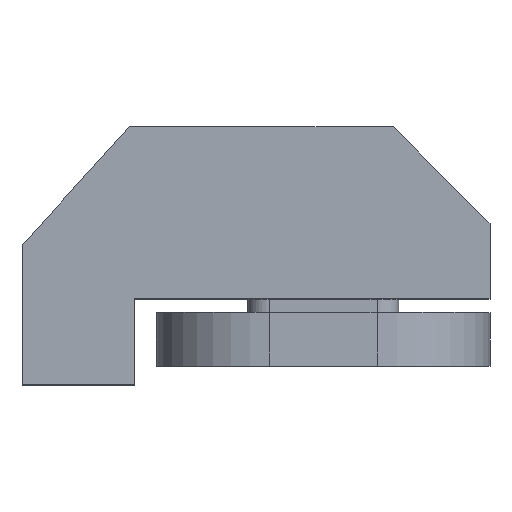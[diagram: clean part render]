
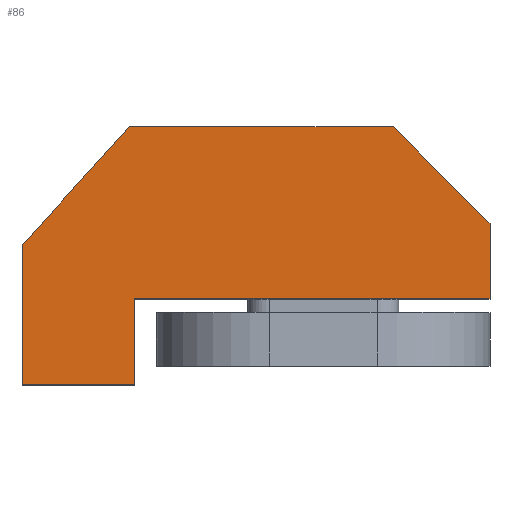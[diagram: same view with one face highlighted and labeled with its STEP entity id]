
A CAD part, top view. The second image highlights one B-rep face of the part: STEP entity #86.
In plain terms, the highlighted planar face has unit normal (0, 0, 1).
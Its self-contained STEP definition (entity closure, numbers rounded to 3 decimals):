
#86=ADVANCED_FACE('',(#137),#138,.T.);
#137=FACE_OUTER_BOUND('',#189,.T.);
#138=PLANE('',#190);
#189=EDGE_LOOP('',(#369,#370,#371,#372,#373,#374,#375,#376));
#190=AXIS2_PLACEMENT_3D('',#377,#378,#379);
#369=ORIENTED_EDGE('',*,*,#427,.F.);
#370=ORIENTED_EDGE('',*,*,#449,.F.);
#371=ORIENTED_EDGE('',*,*,#446,.F.);
#372=ORIENTED_EDGE('',*,*,#443,.F.);
#373=ORIENTED_EDGE('',*,*,#440,.F.);
#374=ORIENTED_EDGE('',*,*,#437,.F.);
#375=ORIENTED_EDGE('',*,*,#434,.F.);
#376=ORIENTED_EDGE('',*,*,#431,.F.);
#377=CARTESIAN_POINT('',(-81.732,127.208,125.0));
#378=DIRECTION('',(0.0,0.0,1.0));
#379=DIRECTION('',(1.0,0.0,0.0));
#427=EDGE_CURVE('',#511,#512,#513,.T.);
#431=EDGE_CURVE('',#512,#519,#520,.T.);
#434=EDGE_CURVE('',#519,#524,#525,.T.);
#437=EDGE_CURVE('',#524,#529,#530,.T.);
#440=EDGE_CURVE('',#529,#534,#535,.T.);
#443=EDGE_CURVE('',#534,#539,#540,.T.);
#446=EDGE_CURVE('',#539,#544,#545,.T.);
#449=EDGE_CURVE('',#544,#511,#549,.T.);
#511=VERTEX_POINT('',#635);
#512=VERTEX_POINT('',#636);
#513=LINE('',#637,#638);
#519=VERTEX_POINT('',#647);
#520=LINE('',#648,#649);
#524=VERTEX_POINT('',#655);
#525=LINE('',#656,#657);
#529=VERTEX_POINT('',#663);
#530=LINE('',#664,#665);
#534=VERTEX_POINT('',#671);
#535=LINE('',#672,#673);
#539=VERTEX_POINT('',#679);
#540=LINE('',#680,#681);
#544=VERTEX_POINT('',#687);
#545=LINE('',#688,#689);
#549=LINE('',#695,#696);
#635=CARTESIAN_POINT('',(-280.0,130.0,125.0));
#636=CARTESIAN_POINT('',(-180.0,240.0,125.0));
#637=CARTESIAN_POINT('',(-280.0,130.0,125.0));
#638=VECTOR('',#759,1.0);
#647=CARTESIAN_POINT('',(65.0,240.0,125.0));
#648=CARTESIAN_POINT('',(-180.0,240.0,125.0));
#649=VECTOR('',#763,1.0);
#655=CARTESIAN_POINT('',(155.0,150.0,125.0));
#656=CARTESIAN_POINT('',(65.0,240.0,125.0));
#657=VECTOR('',#766,1.0);
#663=CARTESIAN_POINT('',(155.0,80.0,125.0));
#664=CARTESIAN_POINT('',(155.0,150.0,125.0));
#665=VECTOR('',#769,1.0);
#671=CARTESIAN_POINT('',(-175.0,80.0,125.0));
#672=CARTESIAN_POINT('',(155.0,80.0,125.0));
#673=VECTOR('',#772,1.0);
#679=CARTESIAN_POINT('',(-175.0,0.0,125.0));
#680=CARTESIAN_POINT('',(-175.0,80.0,125.0));
#681=VECTOR('',#775,1.0);
#687=CARTESIAN_POINT('',(-280.0,0.0,125.0));
#688=CARTESIAN_POINT('',(-175.0,0.0,125.0));
#689=VECTOR('',#778,1.0);
#695=CARTESIAN_POINT('',(-280.0,0.0,125.0));
#696=VECTOR('',#781,1.0);
#759=DIRECTION('',(0.673,0.74,0.0));
#763=DIRECTION('',(1.0,0.0,0.0));
#766=DIRECTION('',(0.707,-0.707,0.0));
#769=DIRECTION('',(0.0,-1.0,0.0));
#772=DIRECTION('',(-1.0,0.0,0.0));
#775=DIRECTION('',(0.0,-1.0,0.0));
#778=DIRECTION('',(-1.0,0.0,0.0));
#781=DIRECTION('',(0.0,1.0,0.0));
